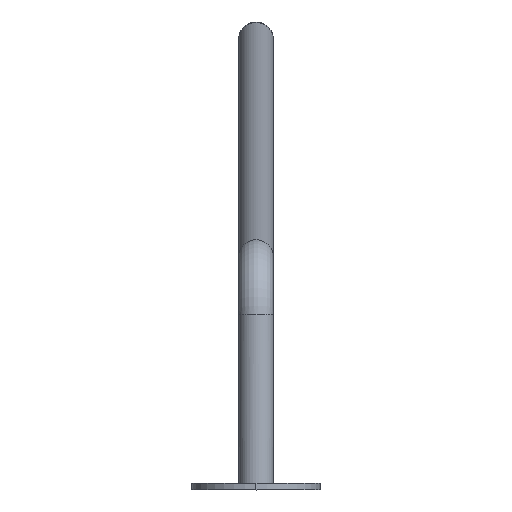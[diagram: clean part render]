
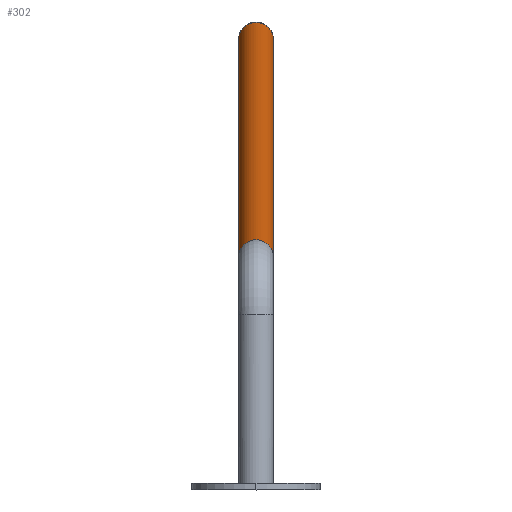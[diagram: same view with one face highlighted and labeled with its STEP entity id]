
A CAD part, front view. The second image highlights one B-rep face of the part: STEP entity #302.
In plain terms, the highlighted cylindrical face has radius 7.5 mm (diameter 15 mm), a partial arc.
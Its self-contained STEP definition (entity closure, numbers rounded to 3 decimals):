
#26=B_SPLINE_CURVE_WITH_KNOTS('',3,(#524,#525,#526,#527,#528,#529,#530,
#531,#532,#533,#534,#535,#536,#537,#538),.UNSPECIFIED.,.F.,.F.,(4,1,1,1,
1,1,1,1,1,1,1,1,4),(0.,0.083,0.167,0.25,0.333,
0.417,0.5,0.583,0.667,0.75,0.833,
0.917,1.),.UNSPECIFIED.);
#30=B_SPLINE_CURVE_WITH_KNOTS('',3,(#570,#571,#572,#573,#574,#575,#576,
#577,#578,#579,#580,#581,#582,#583,#584),.UNSPECIFIED.,.F.,.F.,(4,1,1,1,
1,1,1,1,1,1,1,1,4),(0.,0.083,0.167,0.25,0.333,
0.417,0.5,0.583,0.667,0.75,0.833,
0.917,1.),.UNSPECIFIED.);
#40=CYLINDRICAL_SURFACE('',#338,7.5);
#54=FACE_OUTER_BOUND('',#75,.T.);
#75=EDGE_LOOP('',(#237,#238,#239,#240));
#94=LINE('',#585,#109);
#95=LINE('',#586,#110);
#109=VECTOR('',#408,304.8);
#110=VECTOR('',#409,304.8);
#148=VERTEX_POINT('',#522);
#149=VERTEX_POINT('',#523);
#150=VERTEX_POINT('',#568);
#151=VERTEX_POINT('',#569);
#178=EDGE_CURVE('',#148,#149,#26,.T.);
#182=EDGE_CURVE('',#150,#151,#30,.T.);
#183=EDGE_CURVE('',#148,#150,#94,.T.);
#184=EDGE_CURVE('',#151,#149,#95,.T.);
#237=ORIENTED_EDGE('',*,*,#182,.F.);
#238=ORIENTED_EDGE('',*,*,#183,.F.);
#239=ORIENTED_EDGE('',*,*,#178,.T.);
#240=ORIENTED_EDGE('',*,*,#184,.F.);
#302=ADVANCED_FACE('',(#54),#40,.T.);
#338=AXIS2_PLACEMENT_3D('',#567,#406,#407);
#406=DIRECTION('center_axis',(0.,-0.992,0.123));
#407=DIRECTION('ref_axis',(1.,0.,0.));
#408=DIRECTION('',(0.,-0.992,0.123));
#409=DIRECTION('',(0.,0.992,-0.123));
#522=CARTESIAN_POINT('',(7.5,391.824,100.049));
#523=CARTESIAN_POINT('',(-7.5,391.824,100.049));
#524=CARTESIAN_POINT('Ctrl Pts',(7.5,391.824,100.049));
#525=CARTESIAN_POINT('Ctrl Pts',(7.502,391.905,100.699));
#526=CARTESIAN_POINT('Ctrl Pts',(7.327,392.065,101.997));
#527=CARTESIAN_POINT('Ctrl Pts',(6.57,392.29,103.813));
#528=CARTESIAN_POINT('Ctrl Pts',(5.364,392.483,105.372));
#529=CARTESIAN_POINT('Ctrl Pts',(3.793,392.631,106.569));
#530=CARTESIAN_POINT('Ctrl Pts',(1.963,392.724,107.321));
#531=CARTESIAN_POINT('Ctrl Pts',(0.,392.755,
107.577));
#532=CARTESIAN_POINT('Ctrl Pts',(-1.963,392.724,107.321));
#533=CARTESIAN_POINT('Ctrl Pts',(-3.793,392.631,106.569));
#534=CARTESIAN_POINT('Ctrl Pts',(-5.364,392.483,105.372));
#535=CARTESIAN_POINT('Ctrl Pts',(-6.57,392.29,103.813));
#536=CARTESIAN_POINT('Ctrl Pts',(-7.327,392.065,101.997));
#537=CARTESIAN_POINT('Ctrl Pts',(-7.502,391.905,100.699));
#538=CARTESIAN_POINT('Ctrl Pts',(-7.5,391.824,100.049));
#567=CARTESIAN_POINT('Origin',(0.,-363.054,193.399));
#568=CARTESIAN_POINT('',(7.5,-363.054,193.399));
#569=CARTESIAN_POINT('',(-7.5,-363.054,193.399));
#570=CARTESIAN_POINT('Ctrl Pts',(7.5,-363.054,193.399));
#571=CARTESIAN_POINT('Ctrl Pts',(7.502,-362.974,194.049));
#572=CARTESIAN_POINT('Ctrl Pts',(7.327,-362.813,195.348));
#573=CARTESIAN_POINT('Ctrl Pts',(6.57,-362.589,197.164));
#574=CARTESIAN_POINT('Ctrl Pts',(5.364,-362.396,198.723));
#575=CARTESIAN_POINT('Ctrl Pts',(3.793,-362.248,199.919));
#576=CARTESIAN_POINT('Ctrl Pts',(1.963,-362.155,200.671));
#577=CARTESIAN_POINT('Ctrl Pts',(0.,-362.123,
200.928));
#578=CARTESIAN_POINT('Ctrl Pts',(-1.963,-362.155,200.671));
#579=CARTESIAN_POINT('Ctrl Pts',(-3.793,-362.248,199.919));
#580=CARTESIAN_POINT('Ctrl Pts',(-5.364,-362.396,198.723));
#581=CARTESIAN_POINT('Ctrl Pts',(-6.57,-362.589,197.164));
#582=CARTESIAN_POINT('Ctrl Pts',(-7.327,-362.813,195.348));
#583=CARTESIAN_POINT('Ctrl Pts',(-7.502,-362.974,194.049));
#584=CARTESIAN_POINT('Ctrl Pts',(-7.5,-363.054,193.399));
#585=CARTESIAN_POINT('',(7.5,391.824,100.049));
#586=CARTESIAN_POINT('',(-7.5,-363.054,193.399));
